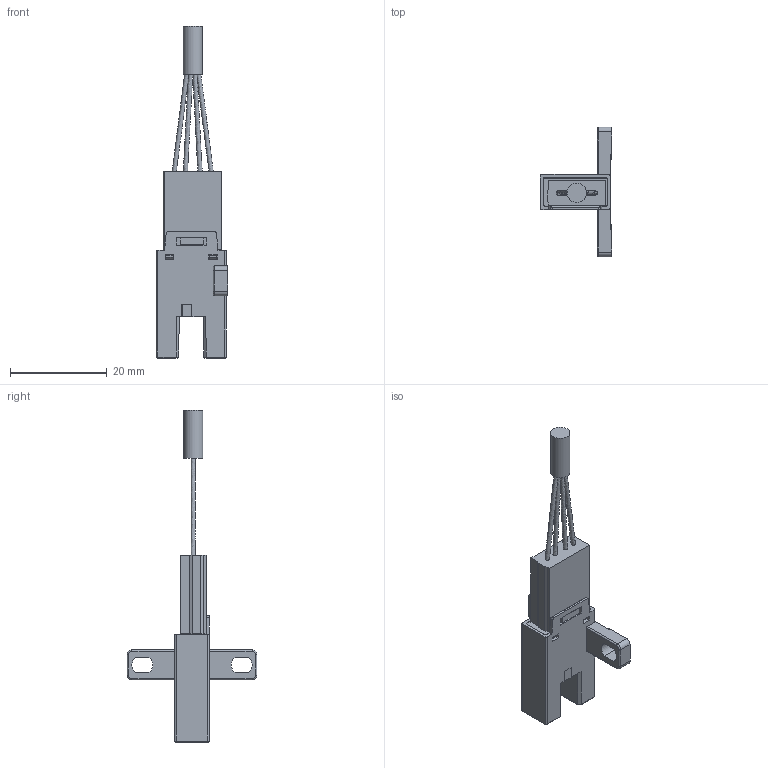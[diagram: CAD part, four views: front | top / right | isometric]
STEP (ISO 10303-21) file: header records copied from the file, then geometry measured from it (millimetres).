
FILE_DESCRIPTION(/* description */ (''),/* implementation_level */ '2;1');
FILE_NAME(/* name */ '303-接插件.stp',/* time_stamp */ '2016-12-22T15:48:14+08:00',/* author */ (''),/* organization */ (''),/* preprocessor_version */ 'ST-DEVELOPER v16',/* originating_system */ 'SIEMENS PLM Software NX 10.0',/* authorisation */ '');
FILE_SCHEMA (('AP203_CONFIGURATION_CONTROLLED_3D_DESIGN_OF_MECHANICAL_PARTS_AND_ASSEMBLIES_MIM_LF { 1 0 10303 403 2 1 2}'));
Length unit declared in the file: millimetre
Products named in the file (1): Gavi0C983A09kaue
Bounding box: 14.7 x 26.8 x 68.5 mm (x, y, z)
Volume: 1434.2 mm3; surface area: 5008 mm2
Topology: 11 solids, 14 shells, 616 faces, 1712 edges, 1136 vertices
Faces by surface type: plane 502, cylinder 98, sphere 6, extrusion 4, torus 4, bspline 2
Full cylindrical faces by diameter (mm): 0.7 x2, 1.5 x2, 4 x1
Entity records: 19865 total; most frequent: CARTESIAN_POINT 3948, ORIENTED_EDGE 3370, DIRECTION 3055, EDGE_CURVE 1693, VECTOR 1379, LINE 1375, VERTEX_POINT 1130, AXIS2_PLACEMENT_3D 838
